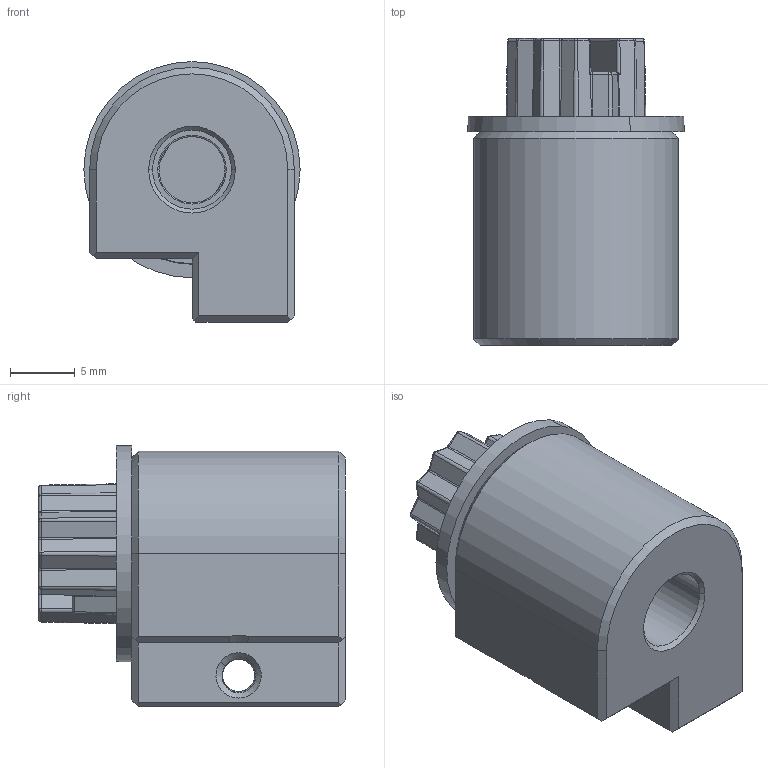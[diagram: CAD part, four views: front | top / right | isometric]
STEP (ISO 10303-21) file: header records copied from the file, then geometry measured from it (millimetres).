
FILE_DESCRIPTION((''),'2;1');
FILE_NAME('JT-S015600_ASM','2026-07-08T18:04:24',('小橙子'),(''),'CREO PARAMETRIC BY PTC INC, 2019080','CREO PARAMETRIC BY PTC INC, 2019080','');
FILE_SCHEMA(('CONFIG_CONTROL_DESIGN','SHAPE_APPEARANCE_LAYERS_GROUPS'));
Length unit declared in the file: millimetre
Products named in the file (3): LC6051565-01; 9209-00392; JT-S015600_ASM
Assembly tree (2 placements, depth 2):
  JT-S015600_ASM
    LC6051565-01
    9209-00392
Bounding box: 16.7 x 23.7 x 20.14 mm (x, y, z)
Volume: 3619.9 mm3; surface area: 3570 mm2
Topology: 2 solids, 2 shells, 259 faces, 650 edges, 402 vertices
Faces by surface type: cylinder 81, plane 64, cone 49, bspline 43, torus 22
Entity records: 16714 total; most frequent: CARTESIAN_POINT 7586, ORIENTED_EDGE 1300, DIRECTION 1174, PRESENTATION_STYLE_ASSIGNMENT 809, STYLED_ITEM 805, CURVE_STYLE 650, EDGE_CURVE 650, AXIS2_PLACEMENT_3D 443
